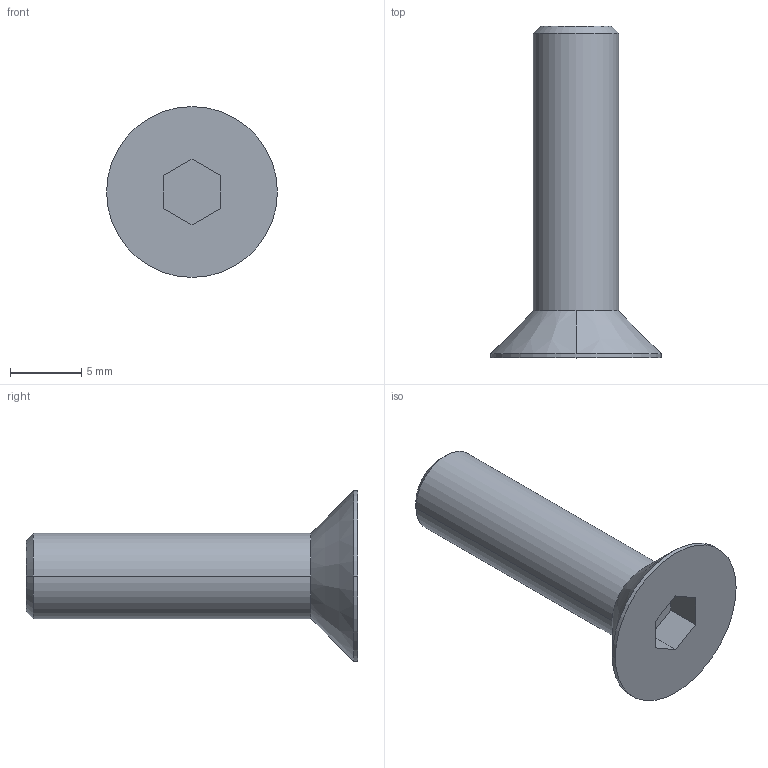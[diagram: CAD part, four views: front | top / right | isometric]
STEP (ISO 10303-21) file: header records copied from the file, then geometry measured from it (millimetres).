
FILE_DESCRIPTION((''),'2;1');
FILE_NAME('VTSEI0620','2002-12-27T',('Lipro doo'),('Lipro d.o.o.'),'PRO/ENGINEER BY PARAMETRIC TECHNOLOGY CORPORATION, 2001150','PRO/ENGINEER BY PARAMETRIC TECHNOLOGY CORPORATION, 2001150','');
FILE_SCHEMA(('CONFIG_CONTROL_DESIGN'));
Length unit declared in the file: millimetre
Products named in the file (1): VTSEI0620
Bounding box: 12 x 23.3 x 12 mm (x, y, z)
Volume: 760.5 mm3; surface area: 992.6 mm2
Topology: 1 solids, 2 shells, 19 faces, 46 edges, 30 vertices
Faces by surface type: plane 9, cylinder 6, cone 4
Entity records: 606 total; most frequent: DIRECTION 104, CARTESIAN_POINT 96, ORIENTED_EDGE 88, EDGE_CURVE 46, AXIS2_PLACEMENT_3D 38, VERTEX_POINT 30, VECTOR 28, LINE 28
